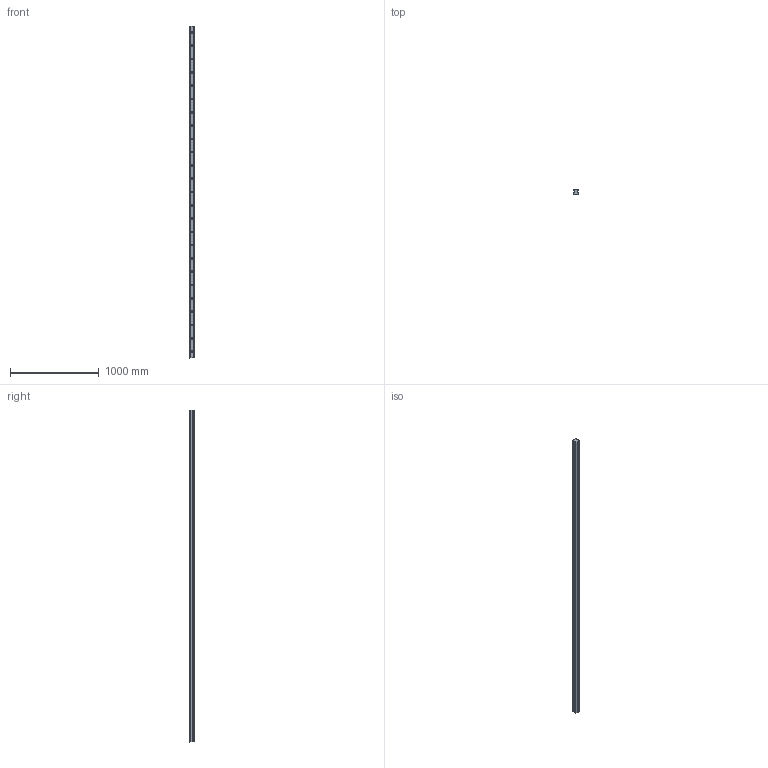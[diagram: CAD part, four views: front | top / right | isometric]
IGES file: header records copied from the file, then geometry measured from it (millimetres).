
Start section: 3D InterOp IGES (v. 2019 1.0.2), Spatial Corp. Copyright (c) 1999-2017.
Global section: file name: R1605.0_size65.igs; native system: Spatial Corp.; preprocessor: 3D InterOp GENERIC/IGES 3.0; author: Noname; organization: Noname; date: 20220629.163424; units: millimetre
Bounding box: 63 x 59.85 x 3746 mm (x, y, z)
Surface area: 1075892.9 mm2 (no closed solid volume)
Topology: 0 solids, 0 shells, 305 faces, 1264 edges, 1264 vertices
Faces by surface type: revolution 164, extrusion 141
